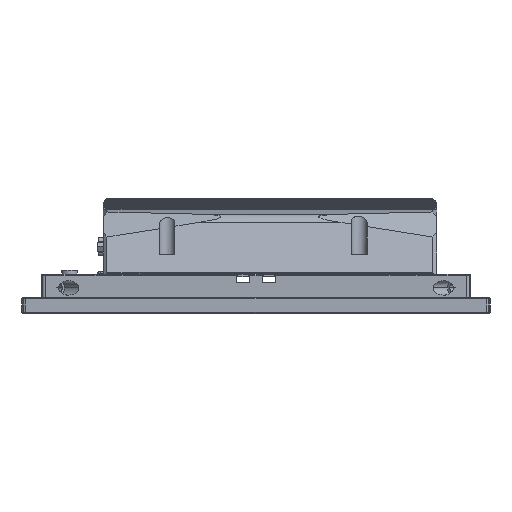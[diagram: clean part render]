
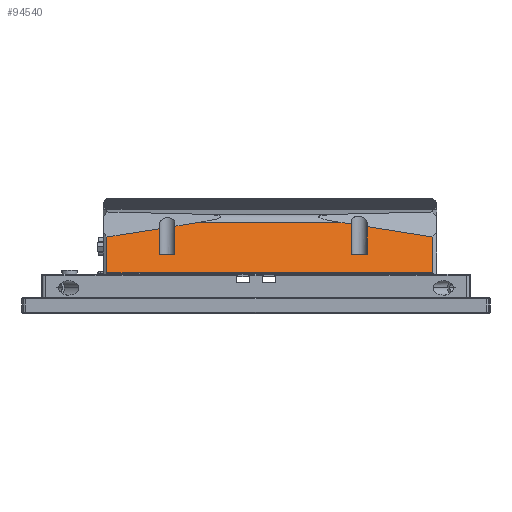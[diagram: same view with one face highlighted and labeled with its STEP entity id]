
A CAD part, left-side view. The second image highlights one B-rep face of the part: STEP entity #94540.
In plain terms, the highlighted planar face has unit normal (-0.949, 0, 0.316).
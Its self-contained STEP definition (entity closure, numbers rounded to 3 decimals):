
#297 = CARTESIAN_POINT ( 'NONE',  ( -113.796, 365.528, 44.212 ) ) ;
#904 = LINE ( 'NONE', #88340, #58272 ) ;
#1484 = ORIENTED_EDGE ( 'NONE', *, *, #35389, .F. ) ;
#1682 = VERTEX_POINT ( 'NONE', #31446 ) ;
#2809 = ORIENTED_EDGE ( 'NONE', *, *, #19918, .T. ) ;
#2883 = ORIENTED_EDGE ( 'NONE', *, *, #14772, .T. ) ;
#3787 = LINE ( 'NONE', #60885, #81036 ) ;
#4010 = LINE ( 'NONE', #27388, #81269 ) ;
#4716 = EDGE_CURVE ( 'NONE', #62207, #56839, #26877, .T. ) ;
#6089 = DIRECTION ( 'NONE',  ( 0., -1., 0. ) ) ;
#6420 = VECTOR ( 'NONE', #75634, 1000. ) ;
#6891 = DIRECTION ( 'NONE',  ( 0.052, -0.986, 0.156 ) ) ;
#7183 = CARTESIAN_POINT ( 'NONE',  ( -121.648, 332.128, 20.657 ) ) ;
#9990 = VERTEX_POINT ( 'NONE', #52288 ) ;
#10383 = VERTEX_POINT ( 'NONE', #64907 ) ;
#10492 = CARTESIAN_POINT ( 'NONE',  ( -118.534, 373.528, 29.999 ) ) ;
#12730 = VERTEX_POINT ( 'NONE', #39734 ) ;
#12869 = DIRECTION ( 'NONE',  ( -0.949, 0., 0.316 ) ) ;
#14022 = LINE ( 'NONE', #58626, #71358 ) ;
#14452 = DIRECTION ( 'NONE',  ( 0., 1., 0. ) ) ;
#14772 = EDGE_CURVE ( 'NONE', #31178, #9990, #15595, .T. ) ;
#15523 = LINE ( 'NONE', #96051, #92671 ) ;
#15595 = LINE ( 'NONE', #64107, #92740 ) ;
#16353 = DIRECTION ( 'NONE',  ( 0., -1., 0. ) ) ;
#17688 = VECTOR ( 'NONE', #44577, 1000. ) ;
#19324 = DIRECTION ( 'NONE',  ( 0.052, 0.986, 0.156 ) ) ;
#19918 = EDGE_CURVE ( 'NONE', #83513, #33237, #58333, .T. ) ;
#21300 = DIRECTION ( 'NONE',  ( -0.316, 0., -0.949 ) ) ;
#22874 = VERTEX_POINT ( 'NONE', #58543 ) ;
#26877 = LINE ( 'NONE', #53255, #64314 ) ;
#27388 = CARTESIAN_POINT ( 'NONE',  ( -118.534, 330.128, 29.999 ) ) ;
#29283 = CARTESIAN_POINT ( 'NONE',  ( -121.648, 498.128, 20.657 ) ) ;
#29475 = VECTOR ( 'NONE', #6891, 1000. ) ;
#29601 = LINE ( 'NONE', #67095, #49455 ) ;
#29641 = CARTESIAN_POINT ( 'NONE',  ( -115.662, 330.128, 38.614 ) ) ;
#30434 = VECTOR ( 'NONE', #6089, 1000. ) ;
#30572 = CARTESIAN_POINT ( 'NONE',  ( -118.534, 365.528, 29.999 ) ) ;
#31178 = VERTEX_POINT ( 'NONE', #95744 ) ;
#31446 = CARTESIAN_POINT ( 'NONE',  ( -114.154, 471.528, 43.136 ) ) ;
#31828 = LINE ( 'NONE', #66425, #29475 ) ;
#32149 = EDGE_CURVE ( 'NONE', #1682, #95970, #3787, .T. ) ;
#32632 = EDGE_CURVE ( 'NONE', #95970, #22874, #43340, .T. ) ;
#33237 = VERTEX_POINT ( 'NONE', #46277 ) ;
#35389 = EDGE_CURVE ( 'NONE', #91424, #62207, #4010, .T. ) ;
#36106 = DIRECTION ( 'NONE',  ( -0.316, 0., -0.949 ) ) ;
#39734 = CARTESIAN_POINT ( 'NONE',  ( -113.733, 463.528, 44.401 ) ) ;
#39932 = ORIENTED_EDGE ( 'NONE', *, *, #60089, .T. ) ;
#43340 = LINE ( 'NONE', #53676, #58643 ) ;
#44019 = ORIENTED_EDGE ( 'NONE', *, *, #32632, .F. ) ;
#44577 = DIRECTION ( 'NONE',  ( 0.052, 0.986, 0.156 ) ) ;
#46277 = CARTESIAN_POINT ( 'NONE',  ( -115.556, 332.128, 38.931 ) ) ;
#48501 = ORIENTED_EDGE ( 'NONE', *, *, #52032, .F. ) ;
#49157 = ORIENTED_EDGE ( 'NONE', *, *, #89550, .T. ) ;
#49455 = VECTOR ( 'NONE', #14452, 1000. ) ;
#50261 = DIRECTION ( 'NONE',  ( 0., -1., 0. ) ) ;
#52032 = EDGE_CURVE ( 'NONE', #31178, #91424, #904, .T. ) ;
#52288 = CARTESIAN_POINT ( 'NONE',  ( -113.036, 379.942, 46.491 ) ) ;
#52648 = ORIENTED_EDGE ( 'NONE', *, *, #73673, .F. ) ;
#52694 = VERTEX_POINT ( 'NONE', #29283 ) ;
#53255 = CARTESIAN_POINT ( 'NONE',  ( -111.867, 365.528, 49.999 ) ) ;
#53676 = CARTESIAN_POINT ( 'NONE',  ( -118.534, 330.128, 29.999 ) ) ;
#53774 = ORIENTED_EDGE ( 'NONE', *, *, #97037, .T. ) ;
#54320 = VERTEX_POINT ( 'NONE', #96868 ) ;
#56071 = ORIENTED_EDGE ( 'NONE', *, *, #32149, .F. ) ;
#56612 = EDGE_LOOP ( 'NONE', ( #53774, #49157, #2809, #92434, #63705, #1484, #48501, #2883, #39932, #95425, #85266, #44019, #56071, #52648 ) ) ;
#56839 = VERTEX_POINT ( 'NONE', #297 ) ;
#57718 = CARTESIAN_POINT ( 'NONE',  ( -111.867, 330.128, 49.999 ) ) ;
#58272 = VECTOR ( 'NONE', #36106, 1000. ) ;
#58333 = LINE ( 'NONE', #58389, #75900 ) ;
#58389 = CARTESIAN_POINT ( 'NONE',  ( -111.867, 332.128, 49.999 ) ) ;
#58543 = CARTESIAN_POINT ( 'NONE',  ( -118.534, 463.528, 29.999 ) ) ;
#58626 = CARTESIAN_POINT ( 'NONE',  ( -121.867, 498.128, 19.999 ) ) ;
#58643 = VECTOR ( 'NONE', #16353, 1000. ) ;
#59568 = EDGE_CURVE ( 'NONE', #33237, #56839, #77413, .T. ) ;
#60089 = EDGE_CURVE ( 'NONE', #9990, #10383, #29601, .T. ) ;
#60537 = CARTESIAN_POINT ( 'NONE',  ( -111.867, 463.528, 49.999 ) ) ;
#60720 = DIRECTION ( 'NONE',  ( 0.316, 0., 0.949 ) ) ;
#60885 = CARTESIAN_POINT ( 'NONE',  ( -111.867, 471.528, 49.999 ) ) ;
#61781 = AXIS2_PLACEMENT_3D ( 'NONE', #57718, #12869, #65156 ) ;
#62207 = VERTEX_POINT ( 'NONE', #30572 ) ;
#63705 = ORIENTED_EDGE ( 'NONE', *, *, #4716, .F. ) ;
#64107 = CARTESIAN_POINT ( 'NONE',  ( -115.662, 330.128, 38.614 ) ) ;
#64314 = VECTOR ( 'NONE', #60720, 1000. ) ;
#64907 = CARTESIAN_POINT ( 'NONE',  ( -113.036, 450.314, 46.491 ) ) ;
#65156 = DIRECTION ( 'NONE',  ( 0.316, 0., 0.949 ) ) ;
#65852 = DIRECTION ( 'NONE',  ( 0.316, 0., 0.949 ) ) ;
#66104 = LINE ( 'NONE', #60537, #6420 ) ;
#66257 = EDGE_CURVE ( 'NONE', #22874, #12730, #66104, .T. ) ;
#66319 = DIRECTION ( 'NONE',  ( 0.052, -0.986, 0.156 ) ) ;
#66425 = CARTESIAN_POINT ( 'NONE',  ( -115.662, 500.128, 38.614 ) ) ;
#67095 = CARTESIAN_POINT ( 'NONE',  ( -113.036, 330.128, 46.491 ) ) ;
#67225 = EDGE_CURVE ( 'NONE', #12730, #10383, #31828, .T. ) ;
#70165 = LINE ( 'NONE', #72853, #30434 ) ;
#71358 = VECTOR ( 'NONE', #21300, 1000. ) ;
#72402 = PLANE ( 'NONE',  #61781 ) ;
#72853 = CARTESIAN_POINT ( 'NONE',  ( -121.648, 330.128, 20.657 ) ) ;
#73673 = EDGE_CURVE ( 'NONE', #54320, #1682, #15523, .T. ) ;
#75634 = DIRECTION ( 'NONE',  ( 0.316, 0., 0.949 ) ) ;
#75900 = VECTOR ( 'NONE', #65852, 1000. ) ;
#77413 = LINE ( 'NONE', #29641, #17688 ) ;
#81036 = VECTOR ( 'NONE', #90910, 1000. ) ;
#81269 = VECTOR ( 'NONE', #50261, 1000. ) ;
#81657 = FACE_OUTER_BOUND ( 'NONE', #56612, .T. ) ;
#83513 = VERTEX_POINT ( 'NONE', #7183 ) ;
#85266 = ORIENTED_EDGE ( 'NONE', *, *, #66257, .F. ) ;
#85872 = CARTESIAN_POINT ( 'NONE',  ( -118.534, 471.528, 29.999 ) ) ;
#88340 = CARTESIAN_POINT ( 'NONE',  ( -111.867, 373.528, 49.999 ) ) ;
#89550 = EDGE_CURVE ( 'NONE', #52694, #83513, #70165, .T. ) ;
#90910 = DIRECTION ( 'NONE',  ( -0.316, 0., -0.949 ) ) ;
#91424 = VERTEX_POINT ( 'NONE', #10492 ) ;
#92434 = ORIENTED_EDGE ( 'NONE', *, *, #59568, .T. ) ;
#92671 = VECTOR ( 'NONE', #66319, 1000. ) ;
#92740 = VECTOR ( 'NONE', #19324, 1000. ) ;
#94540 = ADVANCED_FACE ( 'NONE', ( #81657 ), #72402, .T. ) ;
#95425 = ORIENTED_EDGE ( 'NONE', *, *, #67225, .F. ) ;
#95744 = CARTESIAN_POINT ( 'NONE',  ( -113.374, 373.528, 45.477 ) ) ;
#95970 = VERTEX_POINT ( 'NONE', #85872 ) ;
#96051 = CARTESIAN_POINT ( 'NONE',  ( -115.662, 500.128, 38.614 ) ) ;
#96868 = CARTESIAN_POINT ( 'NONE',  ( -115.556, 498.128, 38.931 ) ) ;
#97037 = EDGE_CURVE ( 'NONE', #54320, #52694, #14022, .T. ) ;
